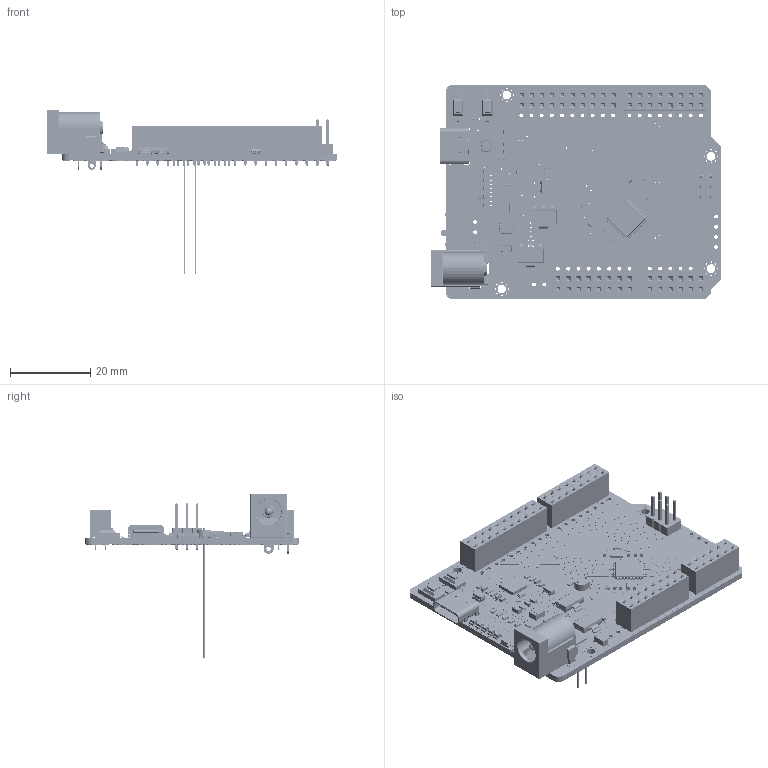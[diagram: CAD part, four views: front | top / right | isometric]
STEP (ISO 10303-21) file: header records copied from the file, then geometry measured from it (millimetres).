
FILE_DESCRIPTION(('KiCad electronic assembly'),'2;1');
FILE_NAME('SPARK_1S.step','2024-08-13T21:05:36',('Pcbnew'),('Kicad'), 'Open CASCADE STEP processor 7.7','KiCad to STEP converter','Unknown' );
FILE_SCHEMA(('AUTOMOTIVE_DESIGN { 1 0 10303 214 1 1 1 1 }'));
Length unit declared in the file: millimetre
Products named in the file (1472): SPARK_1S 1; R_0603_1608Metric; C_0603_1608Metric; DS-210; DS-210 v5; SW_SPST_CK_RS282G05A3; SOT-223; SOT_223; PinHeader_2x03_P2.54mm_Vertical; PinHeader_2x03_P254mm_Vertical; SOT-23; SOT_23; TQFP-32_7x7mm_P0.8mm; TQFP_32_7x7mm_P08mm; C_0402_1005Metric; PinSocket_1x06_P2.54mm_Vertical; PinSocket_1x06_P254mm_Vertical; PinSocket_1x08_P2.54mm_Vertical; PinSocket_1x08_P254mm_Vertical; LED_0805_2012Metric; Type-C 16P; SOT-23-6; SOT_23_6; VSSOP-8_3.0x3.0mm_P0.65mm; VSSOP_8_30x30mm_P065mm; LDR_COLOR; C_1206_3216Metric; L_0603_1608Metric; USON-20_2x4mm_P0.4mm; USON_20_2x4mm_Pitch04mm; Fuse_1210_3225Metric; R_0402_1005Metric; PinSocket_1x10_P2.54mm_Vertical; PinSocket_1x10_P254mm_Vertical; Crystal_SMD_3225-4Pin_3.2x2.5mm; C_0805_2012Metric; QFN-28-1EP_5x5mm_P0.5mm_EP3.35x3.35mm; QFN-28-1EP_5x5mm_Pitch0.5mm; SlideSwitch; PCM12SMTBR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
Assembly tree (1516 placements, depth 3):
  SPARK_1S 1
    R_0603_1608Metric  x19
      R_0603_1608Metric
    C_0603_1608Metric  x15
      C_0603_1608Metric
    DS-210
      DS-210 v5
    SW_SPST_CK_RS282G05A3  x2
      SW_SPST_CK_RS282G05A3
    SOT-223  x2
      SOT_223
    PinHeader_2x03_P2.54mm_Vertical
      PinHeader_2x03_P254mm_Vertical
    SOT-23
      SOT_23
    TQFP-32_7x7mm_P0.8mm
      TQFP_32_7x7mm_P08mm
    C_0402_1005Metric  x3
      C_0402_1005Metric
    PinSocket_1x06_P2.54mm_Vertical  x2
      PinSocket_1x06_P254mm_Vertical
    PinSocket_1x08_P2.54mm_Vertical  x4
      PinSocket_1x08_P254mm_Vertical
    LED_0805_2012Metric  x5
      LED_0805_2012Metric
    Type-C 16P
      Type-C 16P
    SOT-23-6
      SOT_23_6
    VSSOP-8_3.0x3.0mm_P0.65mm
      VSSOP_8_30x30mm_P065mm
    LDR_COLOR
      LDR_COLOR
    C_1206_3216Metric
      C_1206_3216Metric
    L_0603_1608Metric
      L_0603_1608Metric
    USON-20_2x4mm_P0.4mm
      USON_20_2x4mm_Pitch04mm
    Fuse_1210_3225Metric
      Fuse_1210_3225Metric
    R_0402_1005Metric
      R_0402_1005Metric
    PinSocket_1x10_P2.54mm_Vertical  x2
      PinSocket_1x10_P254mm_Vertical
    Crystal_SMD_3225-4Pin_3.2x2.5mm
      Crystal_SMD_3225-4Pin_3.2x2.5mm
    C_0805_2012Metric
      C_0805_2012Metric
    QFN-28-1EP_5x5mm_P0.5mm_EP3.35x3.35mm
      QFN-28-1EP_5x5mm_Pitch0.5mm
    SlideSwitch
      PCM12SMTBR
    D_SOT-23
      D_SOT_23
    AxioMeta Spark (SMD)_track_1
    AxioMeta Spark (SMD)_track_2
    AxioMeta Spark (SMD)_track_3
    AxioMeta Spark (SMD)_track_4
    AxioMeta Spark (SMD)_track_5
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Bounding box: 72.31 x 53.34 x 41 mm (x, y, z)
Volume: 9715 mm3; surface area: 21703.6 mm2
Topology: 1485 solids, 1485 shells, 21818 faces, 54795 edges, 36229 vertices
Faces by surface type: plane 17866, cylinder 3556, bspline 371, sphere 9, torus 9, cone 7
Full cylindrical faces by diameter (mm): 0.25 x1, 0.35 x332, 0.4 x170, 0.5 x2, 0.65 x2, 0.7 x64, 0.75 x6, 0.8 x110, 0.95 x428, 1 x227, 1.082 x1, 1.2 x1, 1.3 x1, 2 x4, 2.15 x12, 2.2 x8, 3 x3, 4.4 x8, 6.4 x1
Entity records: 629642 total; most frequent: CARTESIAN_POINT 105862, ORIENTED_EDGE 96172, DIRECTION 94534, EDGE_CURVE 48086, LINE 41070, VECTOR 41070, VERTEX_POINT 31857, AXIS2_PLACEMENT_3D 26732
